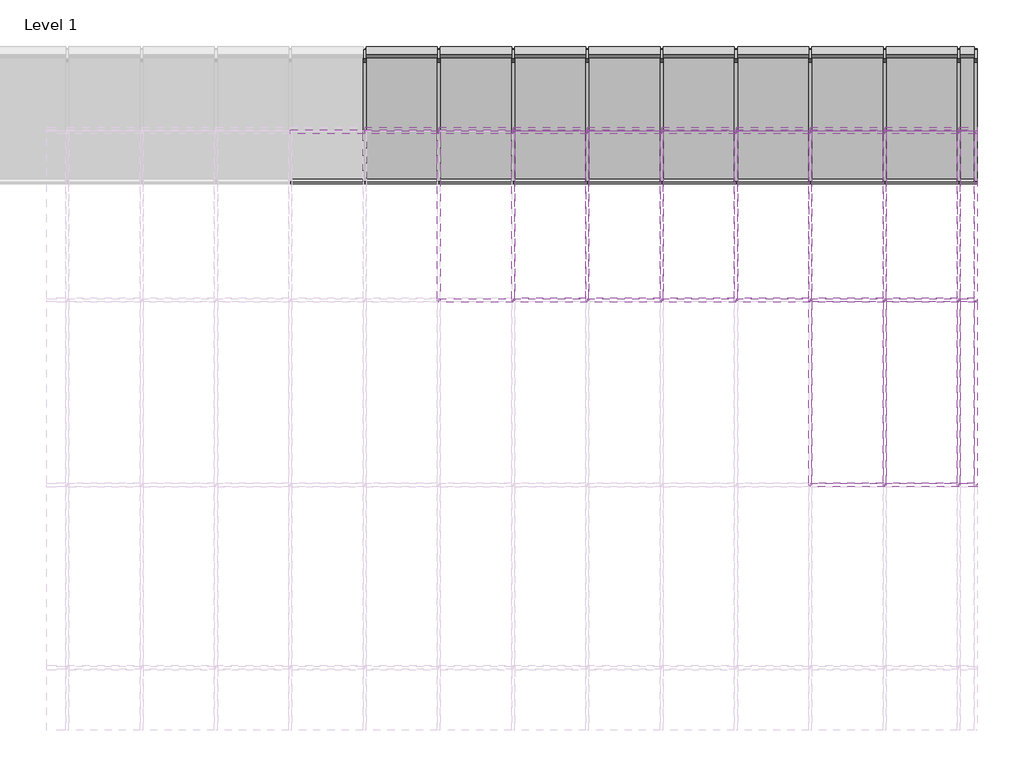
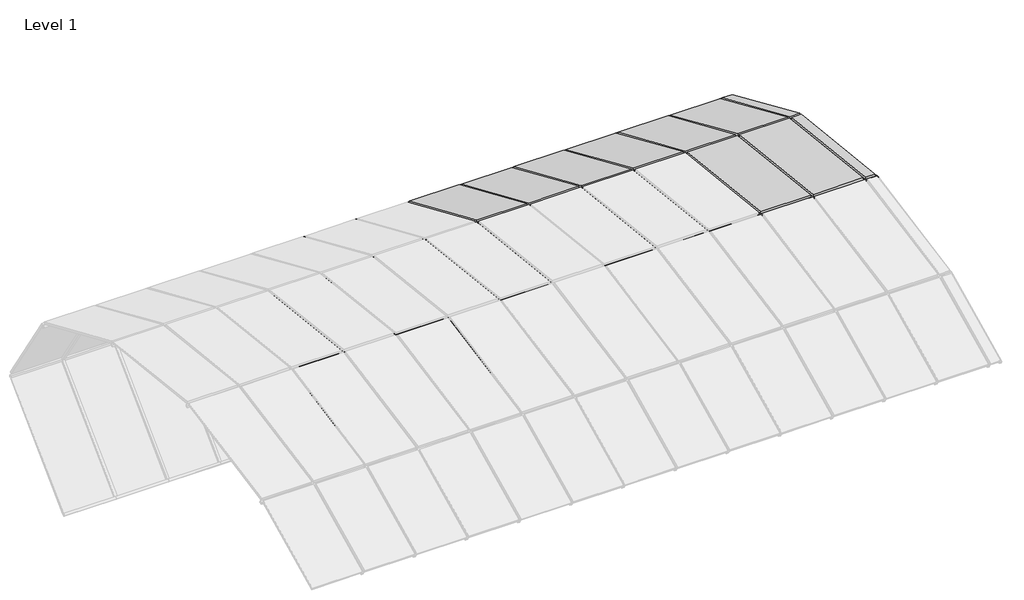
# One storey, part 22 of 23: 82 members, 28 plates.
"""IFC4 building model written with IfcOpenShell, lengths in millimetres."""

from ifc_helpers import new_model, si_unit, origin, place, context, project, spatial, transform, mapped, element, save
from components import member_68981e21, member_3e1f1dd8, member_fea202f7, member_67cfadff, member_309acb9e, member_04f0a375, member_1d69e541, member_e752087b, member_42213d33, member_0f8f75f6, member_88d46f17, member_1ddaab60, system_panel_glazed_36155e08, system_panel_glazed_4484050c, system_panel_glazed_af514bd4, system_panel_glazed_680ba1d7, system_panel_glazed_e96a6bf3, system_panel_glazed_036eda8b

model = new_model("IFC4")

# Units and contexts
model_context = context("Model", 3, world=origin())
ifc_project = project(units=[si_unit("LENGTHUNIT", "METRE", prefix="MILLI")], contexts=[model_context])

# Site, building, storey
site = spatial("IfcSite", under=ifc_project)
building = spatial("IfcBuilding", under=site)
storey = spatial("IfcBuildingStorey", under=building, Name="Level 1", Elevation=0.0)

# Members
placement = place(None, origin())
member_shape = member_68981e21(model_context)
element("IfcMember", 1, ObjectType="Rectangular Mullion : 1\" Square", at=placement, inside=storey, context=model_context, shape_type="MappedRepresentation", body=[
    mapped(member_shape, transform((450.2500186, 7543.2525753, 2085.6089632), x_axis=(0.0, 0.9167487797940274, -0.39946423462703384), y_axis=(0.0, 0.39946423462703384, 0.9167487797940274), z_axis=(1.0, 0.0, 0.0))),
])
element("IfcMember", 2, ObjectType="Rectangular Mullion : 1\" Square", at=placement, inside=storey, context=model_context, shape_type="MappedRepresentation", body=[
    mapped(member_shape, transform((1059.8500186, 7543.2525753, 2085.6089632), x_axis=(0.0, 0.9167487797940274, -0.39946423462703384), y_axis=(0.0, 0.39946423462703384, 0.9167487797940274), z_axis=(1.0, 0.0, 0.0))),
])
element("IfcMember", 3, ObjectType="Rectangular Mullion : 1\" Square", at=placement, inside=storey, context=model_context, shape_type="MappedRepresentation", body=[
    mapped(member_shape, transform((1669.4500186, 7543.2525753, 2085.6089632), x_axis=(0.0, 0.9167487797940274, -0.39946423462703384), y_axis=(0.0, 0.39946423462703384, 0.9167487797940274), z_axis=(1.0, 0.0, 0.0))),
])
element("IfcMember", 4, ObjectType="Rectangular Mullion : 1\" Square", at=placement, inside=storey, context=model_context, shape_type="MappedRepresentation", body=[
    mapped(member_shape, transform((2279.0500186, 7543.2525753, 2085.6089632), x_axis=(0.0, 0.9167487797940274, -0.39946423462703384), y_axis=(0.0, 0.39946423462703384, 0.9167487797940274), z_axis=(1.0, 0.0, 0.0))),
])
element("IfcMember", 5, ObjectType="Rectangular Mullion : 1\" Square", at=placement, inside=storey, context=model_context, shape_type="MappedRepresentation", body=[
    mapped(member_shape, transform((2888.6500186, 7543.2525753, 2085.6089632), x_axis=(0.0, 0.9167487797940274, -0.39946423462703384), y_axis=(0.0, 0.39946423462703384, 0.9167487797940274), z_axis=(1.0, 0.0, 0.0))),
])
element("IfcMember", 6, ObjectType="Rectangular Mullion : 1\" Square", at=placement, inside=storey, context=model_context, shape_type="MappedRepresentation", body=[
    mapped(member_shape, transform((3498.2500186, 7543.2525753, 2085.6089632), x_axis=(0.0, 0.9167487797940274, -0.39946423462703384), y_axis=(0.0, 0.39946423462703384, 0.9167487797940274), z_axis=(1.0, 0.0, 0.0))),
])
element("IfcMember", 7, ObjectType="Rectangular Mullion : 1\" Square", at=placement, inside=storey, context=model_context, shape_type="MappedRepresentation", body=[
    mapped(member_shape, transform((4107.8500186, 7543.2525753, 2085.6089632), x_axis=(0.0, 0.9167487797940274, -0.39946423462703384), y_axis=(0.0, 0.39946423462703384, 0.9167487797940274), z_axis=(1.0, 0.0, 0.0))),
])
element("IfcMember", 8, ObjectType="Rectangular Mullion : 1\" Square", at=placement, inside=storey, context=model_context, shape_type="MappedRepresentation", body=[
    mapped(member_shape, transform((4717.4500186, 7543.2525753, 2085.6089632), x_axis=(0.0, 0.9167487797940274, -0.39946423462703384), y_axis=(0.0, 0.39946423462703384, 0.9167487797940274), z_axis=(1.0, 0.0, 0.0))),
])
element("IfcMember", 9, ObjectType="Rectangular Mullion : 1\" Square", at=placement, inside=storey, context=model_context, shape_type="MappedRepresentation", body=[
    mapped(member_shape, transform((5327.0500186, 7543.2525753, 2085.6089632), x_axis=(0.0, 0.9167487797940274, -0.39946423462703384), y_axis=(0.0, 0.39946423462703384, 0.9167487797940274), z_axis=(1.0, 0.0, 0.0))),
])
element("IfcMember", 10, ObjectType="Rectangular Mullion : 1\" Square", at=placement, inside=storey, context=model_context, shape_type="MappedRepresentation", body=[
    mapped(member_shape, transform((450.2500186, 7111.8807303, 0.0), x_axis=(0.0, -0.713412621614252, -0.7007441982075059), y_axis=(0.0, 0.7007441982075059, -0.713412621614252), z_axis=(1.0, 0.0, 0.0))),
])
element("IfcMember", 11, ObjectType="Rectangular Mullion : 1\" Square", at=placement, inside=storey, context=model_context, shape_type="MappedRepresentation", body=[
    mapped(member_shape, transform((1059.8500186, 7111.8807303, 0.0), x_axis=(0.0, -0.713412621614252, -0.7007441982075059), y_axis=(0.0, 0.7007441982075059, -0.713412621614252), z_axis=(1.0, 0.0, 0.0))),
])
element("IfcMember", 12, ObjectType="Rectangular Mullion : 1\" Square", at=placement, inside=storey, context=model_context, shape_type="MappedRepresentation", body=[
    mapped(member_shape, transform((1669.4500186, 7111.8807303, 0.0), x_axis=(0.0, -0.713412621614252, -0.7007441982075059), y_axis=(0.0, 0.7007441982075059, -0.713412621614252), z_axis=(1.0, 0.0, 0.0))),
])
element("IfcMember", 13, ObjectType="Rectangular Mullion : 1\" Square", at=placement, inside=storey, context=model_context, shape_type="MappedRepresentation", body=[
    mapped(member_shape, transform((2279.0500186, 7111.8807303, 0.0), x_axis=(0.0, -0.713412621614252, -0.7007441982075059), y_axis=(0.0, 0.7007441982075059, -0.713412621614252), z_axis=(1.0, 0.0, 0.0))),
])
element("IfcMember", 14, ObjectType="Rectangular Mullion : 1\" Square", at=placement, inside=storey, context=model_context, shape_type="MappedRepresentation", body=[
    mapped(member_shape, transform((2888.6500186, 7111.8807303, 0.0), x_axis=(0.0, -0.713412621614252, -0.7007441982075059), y_axis=(0.0, 0.7007441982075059, -0.713412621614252), z_axis=(1.0, 0.0, 0.0))),
])
element("IfcMember", 15, ObjectType="Rectangular Mullion : 1\" Square", at=placement, inside=storey, context=model_context, shape_type="MappedRepresentation", body=[
    mapped(member_shape, transform((3498.2500186, 7111.8807303, 0.0), x_axis=(0.0, -0.713412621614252, -0.7007441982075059), y_axis=(0.0, 0.7007441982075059, -0.713412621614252), z_axis=(1.0, 0.0, 0.0))),
])
element("IfcMember", 16, ObjectType="Rectangular Mullion : 1\" Square", at=placement, inside=storey, context=model_context, shape_type="MappedRepresentation", body=[
    mapped(member_shape, transform((4107.8500186, 7111.8807303, 0.0), x_axis=(0.0, -0.713412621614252, -0.7007441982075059), y_axis=(0.0, 0.7007441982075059, -0.713412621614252), z_axis=(1.0, 0.0, 0.0))),
])
element("IfcMember", 17, ObjectType="Rectangular Mullion : 1\" Square", at=placement, inside=storey, context=model_context, shape_type="MappedRepresentation", body=[
    mapped(member_shape, transform((4717.4500186, 7111.8807303, 0.0), x_axis=(0.0, -0.713412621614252, -0.7007441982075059), y_axis=(0.0, 0.7007441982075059, -0.713412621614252), z_axis=(1.0, 0.0, 0.0))),
])
element("IfcMember", 18, ObjectType="Rectangular Mullion : 1\" Square", at=placement, inside=storey, context=model_context, shape_type="MappedRepresentation", body=[
    mapped(member_shape, transform((5327.0500186, 7111.8807303, 0.0), x_axis=(0.0, -0.713412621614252, -0.7007441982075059), y_axis=(0.0, 0.7007441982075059, -0.713412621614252), z_axis=(1.0, 0.0, 0.0))),
])
member_2_shape = member_3e1f1dd8(model_context)
element("IfcMember", 19, ObjectType="Rectangular Mullion : 1\" Square", at=placement, inside=storey, context=model_context, shape_type="MappedRepresentation", body=[
    mapped(member_2_shape, transform((4107.8500186, 4631.6132499, 2864.1651971), x_axis=(0.0, -0.9992773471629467, -0.038010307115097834), y_axis=(0.0, -0.038010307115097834, 0.9992773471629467), z_axis=(-1.0, 0.0, 0.0))),
])
element("IfcMember", 20, ObjectType="Rectangular Mullion : 1\" Square", at=placement, inside=storey, context=model_context, shape_type="MappedRepresentation", body=[
    mapped(member_2_shape, transform((4717.4500186, 4631.6132499, 2864.1651971), x_axis=(0.0, -0.9992773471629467, -0.038010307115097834), y_axis=(0.0, -0.038010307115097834, 0.9992773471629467), z_axis=(-1.0, 0.0, 0.0))),
])
member_3_shape = member_fea202f7(model_context)
element("IfcMember", 21, ObjectType="Rectangular Mullion : 1\" Square", at=placement, inside=storey, context=model_context, shape_type="MappedRepresentation", body=[
    mapped(member_3_shape, transform((5327.0500186, 4631.6132499, 2864.1651971), x_axis=(0.0, -0.9992773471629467, -0.038010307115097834), y_axis=(0.0, -0.038010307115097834, 0.9992773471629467), z_axis=(-1.0, 0.0, 0.0))),
])
element("IfcMember", 22, ObjectType="Rectangular Mullion : 1\" Square", at=placement, inside=storey, context=model_context, shape_type="MappedRepresentation", body=[
    mapped(member_shape, transform((450.2500186, 7543.2525753, 2085.6089632), x_axis=(0.0, -0.5417212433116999, 0.8405582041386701), y_axis=(0.0, 0.8405582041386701, 0.5417212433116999), z_axis=(-1.0, 0.0, 0.0))),
])
element("IfcMember", 23, ObjectType="Rectangular Mullion : 1\" Square", at=placement, inside=storey, context=model_context, shape_type="MappedRepresentation", body=[
    mapped(member_shape, transform((1059.8500186, 7543.2525753, 2085.6089632), x_axis=(0.0, -0.5417212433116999, 0.8405582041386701), y_axis=(0.0, 0.8405582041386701, 0.5417212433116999), z_axis=(-1.0, 0.0, 0.0))),
])
element("IfcMember", 24, ObjectType="Rectangular Mullion : 1\" Square", at=placement, inside=storey, context=model_context, shape_type="MappedRepresentation", body=[
    mapped(member_shape, transform((1669.4500186, 7543.2525753, 2085.6089632), x_axis=(0.0, -0.5417212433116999, 0.8405582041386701), y_axis=(0.0, 0.8405582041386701, 0.5417212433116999), z_axis=(-1.0, 0.0, 0.0))),
])
element("IfcMember", 25, ObjectType="Rectangular Mullion : 1\" Square", at=placement, inside=storey, context=model_context, shape_type="MappedRepresentation", body=[
    mapped(member_shape, transform((2279.0500186, 7543.2525753, 2085.6089632), x_axis=(0.0, -0.5417212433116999, 0.8405582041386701), y_axis=(0.0, 0.8405582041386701, 0.5417212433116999), z_axis=(-1.0, 0.0, 0.0))),
])
element("IfcMember", 26, ObjectType="Rectangular Mullion : 1\" Square", at=placement, inside=storey, context=model_context, shape_type="MappedRepresentation", body=[
    mapped(member_shape, transform((2888.6500186, 7543.2525753, 2085.6089632), x_axis=(0.0, -0.5417212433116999, 0.8405582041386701), y_axis=(0.0, 0.8405582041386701, 0.5417212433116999), z_axis=(-1.0, 0.0, 0.0))),
])
element("IfcMember", 27, ObjectType="Rectangular Mullion : 1\" Square", at=placement, inside=storey, context=model_context, shape_type="MappedRepresentation", body=[
    mapped(member_shape, transform((3498.2500186, 7543.2525753, 2085.6089632), x_axis=(0.0, -0.5417212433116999, 0.8405582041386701), y_axis=(0.0, 0.8405582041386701, 0.5417212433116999), z_axis=(-1.0, 0.0, 0.0))),
])
element("IfcMember", 28, ObjectType="Rectangular Mullion : 1\" Square", at=placement, inside=storey, context=model_context, shape_type="MappedRepresentation", body=[
    mapped(member_shape, transform((4107.8500186, 7543.2525753, 2085.6089632), x_axis=(0.0, -0.5417212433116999, 0.8405582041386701), y_axis=(0.0, 0.8405582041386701, 0.5417212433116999), z_axis=(-1.0, 0.0, 0.0))),
])
element("IfcMember", 29, ObjectType="Rectangular Mullion : 1\" Square", at=placement, inside=storey, context=model_context, shape_type="MappedRepresentation", body=[
    mapped(member_shape, transform((4717.4500186, 7543.2525753, 2085.6089632), x_axis=(0.0, -0.5417212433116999, 0.8405582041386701), y_axis=(0.0, 0.8405582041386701, 0.5417212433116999), z_axis=(-1.0, 0.0, 0.0))),
])
element("IfcMember", 30, ObjectType="Rectangular Mullion : 1\" Square", at=placement, inside=storey, context=model_context, shape_type="MappedRepresentation", body=[
    mapped(member_2_shape, transform((1059.8500186, 6146.1274349, 2694.3924567), x_axis=(0.0, -0.9660596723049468, 0.25831900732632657), y_axis=(0.0, 0.25831900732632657, 0.9660596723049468), z_axis=(-1.0, 0.0, 0.0))),
])
element("IfcMember", 31, ObjectType="Rectangular Mullion : 1\" Square", at=placement, inside=storey, context=model_context, shape_type="MappedRepresentation", body=[
    mapped(member_2_shape, transform((1669.4500186, 6146.1274349, 2694.3924567), x_axis=(0.0, -0.9660596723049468, 0.25831900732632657), y_axis=(0.0, 0.25831900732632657, 0.9660596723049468), z_axis=(-1.0, 0.0, 0.0))),
])
element("IfcMember", 32, ObjectType="Rectangular Mullion : 1\" Square", at=placement, inside=storey, context=model_context, shape_type="MappedRepresentation", body=[
    mapped(member_2_shape, transform((2279.0500186, 6146.1274349, 2694.3924567), x_axis=(0.0, -0.9660596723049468, 0.25831900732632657), y_axis=(0.0, 0.25831900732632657, 0.9660596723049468), z_axis=(-1.0, 0.0, 0.0))),
])
element("IfcMember", 33, ObjectType="Rectangular Mullion : 1\" Square", at=placement, inside=storey, context=model_context, shape_type="MappedRepresentation", body=[
    mapped(member_2_shape, transform((2888.6500186, 6146.1274349, 2694.3924567), x_axis=(0.0, -0.9660596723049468, 0.25831900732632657), y_axis=(0.0, 0.25831900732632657, 0.9660596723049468), z_axis=(-1.0, 0.0, 0.0))),
])
element("IfcMember", 34, ObjectType="Rectangular Mullion : 1\" Square", at=placement, inside=storey, context=model_context, shape_type="MappedRepresentation", body=[
    mapped(member_2_shape, transform((3498.2500186, 6146.1274349, 2694.3924567), x_axis=(0.0, -0.9660596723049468, 0.25831900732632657), y_axis=(0.0, 0.25831900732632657, 0.9660596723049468), z_axis=(-1.0, 0.0, 0.0))),
])
element("IfcMember", 35, ObjectType="Rectangular Mullion : 1\" Square", at=placement, inside=storey, context=model_context, shape_type="MappedRepresentation", body=[
    mapped(member_2_shape, transform((4107.8500186, 6146.1274349, 2694.3924567), x_axis=(0.0, -0.9660596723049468, 0.25831900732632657), y_axis=(0.0, 0.25831900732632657, 0.9660596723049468), z_axis=(-1.0, 0.0, 0.0))),
])
element("IfcMember", 36, ObjectType="Rectangular Mullion : 1\" Square", at=placement, inside=storey, context=model_context, shape_type="MappedRepresentation", body=[
    mapped(member_2_shape, transform((4717.4500186, 6146.1274349, 2694.3924567), x_axis=(0.0, -0.9660596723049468, 0.25831900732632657), y_axis=(0.0, 0.25831900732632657, 0.9660596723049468), z_axis=(-1.0, 0.0, 0.0))),
])
element("IfcMember", 37, ObjectType="Rectangular Mullion : 1\" Square", at=placement, inside=storey, context=model_context, shape_type="MappedRepresentation", body=[
    mapped(member_2_shape, transform((450.2500186, 8199.1215657, 1067.9341581), x_axis=(0.0, 0.017915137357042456, 0.9998395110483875), y_axis=(0.0, 0.9998395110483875, -0.017915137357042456), z_axis=(-1.0, 0.0, 0.0))),
])
element("IfcMember", 38, ObjectType="Rectangular Mullion : 1\" Square", at=placement, inside=storey, context=model_context, shape_type="MappedRepresentation", body=[
    mapped(member_2_shape, transform((1059.8500186, 8199.1215657, 1067.9341581), x_axis=(0.0, 0.017915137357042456, 0.9998395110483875), y_axis=(0.0, 0.9998395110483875, -0.017915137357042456), z_axis=(-1.0, 0.0, 0.0))),
])
element("IfcMember", 39, ObjectType="Rectangular Mullion : 1\" Square", at=placement, inside=storey, context=model_context, shape_type="MappedRepresentation", body=[
    mapped(member_2_shape, transform((1669.4500186, 8199.1215657, 1067.9341581), x_axis=(0.0, 0.017915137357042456, 0.9998395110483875), y_axis=(0.0, 0.9998395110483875, -0.017915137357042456), z_axis=(-1.0, 0.0, 0.0))),
])
element("IfcMember", 40, ObjectType="Rectangular Mullion : 1\" Square", at=placement, inside=storey, context=model_context, shape_type="MappedRepresentation", body=[
    mapped(member_2_shape, transform((2279.0500186, 8199.1215657, 1067.9341581), x_axis=(0.0, 0.017915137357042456, 0.9998395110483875), y_axis=(0.0, 0.9998395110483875, -0.017915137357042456), z_axis=(-1.0, 0.0, 0.0))),
])
element("IfcMember", 41, ObjectType="Rectangular Mullion : 1\" Square", at=placement, inside=storey, context=model_context, shape_type="MappedRepresentation", body=[
    mapped(member_2_shape, transform((2888.6500186, 8199.1215657, 1067.9341581), x_axis=(0.0, 0.017915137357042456, 0.9998395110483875), y_axis=(0.0, 0.9998395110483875, -0.017915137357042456), z_axis=(-1.0, 0.0, 0.0))),
])
element("IfcMember", 42, ObjectType="Rectangular Mullion : 1\" Square", at=placement, inside=storey, context=model_context, shape_type="MappedRepresentation", body=[
    mapped(member_2_shape, transform((3498.2500186, 8199.1215657, 1067.9341581), x_axis=(0.0, 0.017915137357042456, 0.9998395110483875), y_axis=(0.0, 0.9998395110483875, -0.017915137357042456), z_axis=(-1.0, 0.0, 0.0))),
])
element("IfcMember", 43, ObjectType="Rectangular Mullion : 1\" Square", at=placement, inside=storey, context=model_context, shape_type="MappedRepresentation", body=[
    mapped(member_2_shape, transform((4107.8500186, 8199.1215657, 1067.9341581), x_axis=(0.0, 0.017915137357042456, 0.9998395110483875), y_axis=(0.0, 0.9998395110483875, -0.017915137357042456), z_axis=(-1.0, 0.0, 0.0))),
])
element("IfcMember", 44, ObjectType="Rectangular Mullion : 1\" Square", at=placement, inside=storey, context=model_context, shape_type="MappedRepresentation", body=[
    mapped(member_2_shape, transform((4717.4500186, 8199.1215657, 1067.9341581), x_axis=(0.0, 0.017915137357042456, 0.9998395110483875), y_axis=(0.0, 0.9998395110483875, -0.017915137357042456), z_axis=(-1.0, 0.0, 0.0))),
])
element("IfcMember", 45, ObjectType="Rectangular Mullion : 1\" Square", at=placement, inside=storey, context=model_context, shape_type="MappedRepresentation", body=[
    mapped(member_3_shape, transform((5327.0500186, 6146.1274349, 2694.3924567), x_axis=(0.0, -0.9660596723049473, 0.25831900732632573), y_axis=(0.0, 0.2583190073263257, 0.966059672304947), z_axis=(-1.0, 0.0, 0.0))),
])
element("IfcMember", 46, ObjectType="Rectangular Mullion : 1\" Square", at=placement, inside=storey, context=model_context, shape_type="MappedRepresentation", body=[
    mapped(member_3_shape, transform((5327.0500186, 8199.1215657, 1067.9341581), x_axis=(0.0, 0.017915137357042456, 0.9998395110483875), y_axis=(0.0, 0.9998395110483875, -0.017915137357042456), z_axis=(-1.0, 0.0, 0.0))),
])
member_4_shape = member_67cfadff(model_context)
element("IfcMember", 47, ObjectType="Rectangular Mullion : 1\" Square", at=placement, inside=storey, context=model_context, shape_type="MappedRepresentation", body=[
    mapped(member_4_shape, transform((1059.8500186, 6157.7701444, 2689.3192609), x_axis=(1.0, 0.0, 0.0), y_axis=(0.0, 0.39946423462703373, 0.9167487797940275), z_axis=(0.0, -0.9167487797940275, 0.39946423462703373))),
])
element("IfcMember", 48, ObjectType="Rectangular Mullion : 1\" Square", at=placement, inside=storey, context=model_context, shape_type="MappedRepresentation", body=[
    mapped(member_4_shape, transform((1669.4500186, 6157.7701444, 2689.3192609), x_axis=(1.0, 0.0, 0.0), y_axis=(0.0, 0.39946423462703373, 0.9167487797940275), z_axis=(0.0, -0.9167487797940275, 0.39946423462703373))),
])
element("IfcMember", 49, ObjectType="Rectangular Mullion : 1\" Square", at=placement, inside=storey, context=model_context, shape_type="MappedRepresentation", body=[
    mapped(member_4_shape, transform((2279.0500186, 6157.7701444, 2689.3192609), x_axis=(1.0, 0.0, 0.0), y_axis=(0.0, 0.39946423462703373, 0.9167487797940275), z_axis=(0.0, -0.9167487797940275, 0.39946423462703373))),
])
element("IfcMember", 50, ObjectType="Rectangular Mullion : 1\" Square", at=placement, inside=storey, context=model_context, shape_type="MappedRepresentation", body=[
    mapped(member_4_shape, transform((2888.6500186, 6157.7701444, 2689.3192609), x_axis=(1.0, 0.0, 0.0), y_axis=(0.0, 0.39946423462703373, 0.9167487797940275), z_axis=(0.0, -0.9167487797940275, 0.39946423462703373))),
])
element("IfcMember", 51, ObjectType="Rectangular Mullion : 1\" Square", at=placement, inside=storey, context=model_context, shape_type="MappedRepresentation", body=[
    mapped(member_4_shape, transform((3498.2500186, 6157.7701444, 2689.3192609), x_axis=(1.0, 0.0, 0.0), y_axis=(0.0, 0.39946423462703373, 0.9167487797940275), z_axis=(0.0, -0.9167487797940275, 0.39946423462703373))),
])
element("IfcMember", 52, ObjectType="Rectangular Mullion : 1\" Square", at=placement, inside=storey, context=model_context, shape_type="MappedRepresentation", body=[
    mapped(member_4_shape, transform((4107.8500186, 6157.7701444, 2689.3192609), x_axis=(1.0, 0.0, 0.0), y_axis=(0.0, 0.39946423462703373, 0.9167487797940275), z_axis=(0.0, -0.9167487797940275, 0.39946423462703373))),
])
element("IfcMember", 53, ObjectType="Rectangular Mullion : 1\" Square", at=placement, inside=storey, context=model_context, shape_type="MappedRepresentation", body=[
    mapped(member_4_shape, transform((4717.4500186, 6157.7701444, 2689.3192609), x_axis=(1.0, 0.0, 0.0), y_axis=(0.0, 0.39946423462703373, 0.9167487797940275), z_axis=(0.0, -0.9167487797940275, 0.39946423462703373))),
])
member_5_shape = member_309acb9e(model_context)
element("IfcMember", 54, ObjectType="Rectangular Mullion : 1\" Square", at=placement, inside=storey, context=model_context, shape_type="MappedRepresentation", body=[
    mapped(member_5_shape, transform((4107.8500186, 4644.2342014, 2862.7504243), x_axis=(0.9999999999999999, 0.0, 0.0), y_axis=(0.0, 0.11139943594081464, 0.9937757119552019), z_axis=(0.0, -0.9937757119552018, 0.11139943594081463))),
])
element("IfcMember", 55, ObjectType="Rectangular Mullion : 1\" Square", at=placement, inside=storey, context=model_context, shape_type="MappedRepresentation", body=[
    mapped(member_5_shape, transform((4717.4500186, 4644.2342014, 2862.7504243), x_axis=(0.9999999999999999, 0.0, 0.0), y_axis=(0.0, 0.11139943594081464, 0.9937757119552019), z_axis=(0.0, -0.9937757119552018, 0.11139943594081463))),
])
element("IfcMember", 56, ObjectType="Rectangular Mullion : 1\" Square", at=placement, inside=storey, context=model_context, shape_type="MappedRepresentation", body=[
    mapped(member_4_shape, transform((5327.0500186, 6157.7701444, 2689.3192609), x_axis=(0.9999999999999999, 0.0, 0.0), y_axis=(0.0, 0.3994642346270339, 0.9167487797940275), z_axis=(0.0, -0.9167487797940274, 0.39946423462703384))),
])
element("IfcMember", 57, ObjectType="Rectangular Mullion : 1\" Square", at=placement, inside=storey, context=model_context, shape_type="MappedRepresentation", body=[
    mapped(member_5_shape, transform((5327.0500186, 4644.2342014, 2862.7504243), x_axis=(0.9999999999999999, 0.0, 0.0), y_axis=(0.0, 0.1113994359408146, 0.9937757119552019), z_axis=(0.0, -0.9937757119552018, 0.11139943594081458))),
])
member_6_shape = member_04f0a375(model_context)
element("IfcMember", 58, ObjectType="Rectangular Mullion : 1\" Square", at=placement, inside=storey, context=model_context, shape_type="MappedRepresentation", body=[
    mapped(member_6_shape, transform((5479.4500186, 6157.7701444, 2689.3192609), x_axis=(1.0, 0.0, 0.0), y_axis=(0.0, 0.39946423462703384, 0.9167487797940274), z_axis=(0.0, -0.9167487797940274, 0.39946423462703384))),
])
member_7_shape = member_1d69e541(model_context)
element("IfcMember", 59, ObjectType="Rectangular Mullion : 1\" Square", at=placement, inside=storey, context=model_context, shape_type="MappedRepresentation", body=[
    mapped(member_7_shape, transform((5479.4500186, 4644.2342014, 2862.7504243), x_axis=(1.0, 0.0, 0.0), y_axis=(0.0, 0.11139943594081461, 0.993775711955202), z_axis=(0.0, -0.9937757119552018, 0.11139943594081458))),
])
member_8_shape = member_e752087b(model_context)
element("IfcMember", 60, ObjectType="Rectangular Mullion : 1\" Square", at=placement, inside=storey, context=model_context, shape_type="MappedRepresentation", body=[
    mapped(member_8_shape, transform((5479.4500186, 7543.2525753, 2085.6089632), x_axis=(0.0, 0.9167487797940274, -0.39946423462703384), y_axis=(0.0, 0.39946423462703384, 0.9167487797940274), z_axis=(1.0, 0.0, 0.0))),
])
element("IfcMember", 61, ObjectType="Rectangular Mullion : 1\" Square", at=placement, inside=storey, context=model_context, shape_type="MappedRepresentation", body=[
    mapped(member_8_shape, transform((5479.4500186, 7111.8807303, 0.0), x_axis=(0.0, -0.713412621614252, -0.7007441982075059), y_axis=(0.0, 0.7007441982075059, -0.713412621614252), z_axis=(1.0, 0.0, 0.0))),
])
member_9_shape = member_42213d33(model_context)
element("IfcMember", 62, ObjectType="Rectangular Mullion : 1\" Square", at=placement, inside=storey, context=model_context, shape_type="MappedRepresentation", body=[
    mapped(member_9_shape, transform((3498.2500186, 8190.0612254, 1059.0347068), x_axis=(1.0, 0.0, 0.0), y_axis=(0.0, 0.7007441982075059, -0.713412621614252), z_axis=(0.0, 0.713412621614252, 0.7007441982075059))),
])
element("IfcMember", 63, ObjectType="Rectangular Mullion : 1\" Square", at=placement, inside=storey, context=model_context, shape_type="MappedRepresentation", body=[
    mapped(member_9_shape, transform((4107.8500186, 8190.0612254, 1059.0347068), x_axis=(1.0, 0.0, 0.0), y_axis=(0.0, 0.7007441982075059, -0.713412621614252), z_axis=(0.0, 0.713412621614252, 0.7007441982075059))),
])
element("IfcMember", 64, ObjectType="Rectangular Mullion : 1\" Square", at=placement, inside=storey, context=model_context, shape_type="MappedRepresentation", body=[
    mapped(member_9_shape, transform((4717.4500186, 8190.0612254, 1059.0347068), x_axis=(1.0, 0.0, 0.0), y_axis=(0.0, 0.7007441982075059, -0.713412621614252), z_axis=(0.0, 0.713412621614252, 0.7007441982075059))),
])
element("IfcMember", 65, ObjectType="Rectangular Mullion : 1\" Square", at=placement, inside=storey, context=model_context, shape_type="MappedRepresentation", body=[
    mapped(member_9_shape, transform((450.2500186, 8190.0612254, 1059.0347068), x_axis=(1.0, 0.0, 0.0), y_axis=(0.0, 0.7007441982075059, -0.713412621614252), z_axis=(0.0, 0.713412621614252, 0.7007441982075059))),
])
element("IfcMember", 66, ObjectType="Rectangular Mullion : 1\" Square", at=placement, inside=storey, context=model_context, shape_type="MappedRepresentation", body=[
    mapped(member_9_shape, transform((1059.8500186, 8190.0612254, 1059.0347068), x_axis=(1.0, 0.0, 0.0), y_axis=(0.0, 0.7007441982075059, -0.713412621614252), z_axis=(0.0, 0.713412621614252, 0.7007441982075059))),
])
element("IfcMember", 67, ObjectType="Rectangular Mullion : 1\" Square", at=placement, inside=storey, context=model_context, shape_type="MappedRepresentation", body=[
    mapped(member_9_shape, transform((1669.4500186, 8190.0612254, 1059.0347068), x_axis=(1.0, 0.0, 0.0), y_axis=(0.0, 0.7007441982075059, -0.713412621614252), z_axis=(0.0, 0.713412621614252, 0.7007441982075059))),
])
element("IfcMember", 68, ObjectType="Rectangular Mullion : 1\" Square", at=placement, inside=storey, context=model_context, shape_type="MappedRepresentation", body=[
    mapped(member_9_shape, transform((2279.0500186, 8190.0612254, 1059.0347068), x_axis=(1.0, 0.0, 0.0), y_axis=(0.0, 0.7007441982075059, -0.713412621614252), z_axis=(0.0, 0.713412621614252, 0.7007441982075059))),
])
element("IfcMember", 69, ObjectType="Rectangular Mullion : 1\" Square", at=placement, inside=storey, context=model_context, shape_type="MappedRepresentation", body=[
    mapped(member_9_shape, transform((2888.6500186, 8190.0612254, 1059.0347068), x_axis=(1.0, 0.0, 0.0), y_axis=(0.0, 0.7007441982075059, -0.713412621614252), z_axis=(0.0, 0.713412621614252, 0.7007441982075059))),
])
member_10_shape = member_0f8f75f6(model_context)
element("IfcMember", 70, ObjectType="Rectangular Mullion : 1\" Square", at=placement, inside=storey, context=model_context, shape_type="MappedRepresentation", body=[
    mapped(member_10_shape, transform((3498.2500186, 7557.0122949, 2064.2587848), x_axis=(0.9999999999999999, 0.0, 0.0), y_axis=(0.0, 0.8405582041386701, 0.5417212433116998), z_axis=(0.0, -0.5417212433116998, 0.84055820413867))),
])
element("IfcMember", 71, ObjectType="Rectangular Mullion : 1\" Square", at=placement, inside=storey, context=model_context, shape_type="MappedRepresentation", body=[
    mapped(member_10_shape, transform((4107.8500186, 7557.0122949, 2064.2587848), x_axis=(1.0, 0.0, 0.0), y_axis=(0.0, 0.8405582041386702, 0.5417212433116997), z_axis=(0.0, -0.5417212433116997, 0.8405582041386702))),
])
element("IfcMember", 72, ObjectType="Rectangular Mullion : 1\" Square", at=placement, inside=storey, context=model_context, shape_type="MappedRepresentation", body=[
    mapped(member_10_shape, transform((4717.4500186, 7557.0122949, 2064.2587848), x_axis=(1.0, 0.0, 0.0), y_axis=(0.0, 0.8405582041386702, 0.5417212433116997), z_axis=(0.0, -0.5417212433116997, 0.8405582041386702))),
])
element("IfcMember", 73, ObjectType="Rectangular Mullion : 1\" Square", at=placement, inside=storey, context=model_context, shape_type="MappedRepresentation", body=[
    mapped(member_10_shape, transform((450.2500186, 7557.0122949, 2064.2587848), x_axis=(0.9999999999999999, 0.0, 0.0), y_axis=(0.0, 0.8405582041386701, 0.5417212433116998), z_axis=(0.0, -0.5417212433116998, 0.84055820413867))),
])
element("IfcMember", 74, ObjectType="Rectangular Mullion : 1\" Square", at=placement, inside=storey, context=model_context, shape_type="MappedRepresentation", body=[
    mapped(member_10_shape, transform((1059.8500186, 7557.0122949, 2064.2587848), x_axis=(0.9999999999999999, 0.0, 0.0), y_axis=(0.0, 0.8405582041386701, 0.5417212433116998), z_axis=(0.0, -0.5417212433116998, 0.84055820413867))),
])
element("IfcMember", 75, ObjectType="Rectangular Mullion : 1\" Square", at=placement, inside=storey, context=model_context, shape_type="MappedRepresentation", body=[
    mapped(member_10_shape, transform((1669.4500186, 7557.0122949, 2064.2587848), x_axis=(0.9999999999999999, 0.0, 0.0), y_axis=(0.0, 0.8405582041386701, 0.5417212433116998), z_axis=(0.0, -0.5417212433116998, 0.84055820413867))),
])
element("IfcMember", 76, ObjectType="Rectangular Mullion : 1\" Square", at=placement, inside=storey, context=model_context, shape_type="MappedRepresentation", body=[
    mapped(member_10_shape, transform((2279.0500186, 7557.0122949, 2064.2587848), x_axis=(0.9999999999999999, 0.0, 0.0), y_axis=(0.0, 0.8405582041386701, 0.5417212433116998), z_axis=(0.0, -0.5417212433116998, 0.84055820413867))),
])
element("IfcMember", 77, ObjectType="Rectangular Mullion : 1\" Square", at=placement, inside=storey, context=model_context, shape_type="MappedRepresentation", body=[
    mapped(member_10_shape, transform((2888.6500186, 7557.0122949, 2064.2587848), x_axis=(0.9999999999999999, 0.0, 0.0), y_axis=(0.0, 0.8405582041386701, 0.5417212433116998), z_axis=(0.0, -0.5417212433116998, 0.84055820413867))),
])
element("IfcMember", 78, ObjectType="Rectangular Mullion : 1\" Square", at=placement, inside=storey, context=model_context, shape_type="MappedRepresentation", body=[
    mapped(member_8_shape, transform((5327.0500186, 7543.2525753, 2085.6089632), x_axis=(0.0, -0.5417212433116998, 0.8405582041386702), y_axis=(0.0, 0.8405582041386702, 0.5417212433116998), z_axis=(-1.0, 0.0, 0.0))),
])
element("IfcMember", 79, ObjectType="Rectangular Mullion : 1\" Square", at=placement, inside=storey, context=model_context, shape_type="MappedRepresentation", body=[
    mapped(member_9_shape, transform((5327.0500186, 8190.0612254, 1059.0347068), x_axis=(1.0, 0.0, 0.0), y_axis=(0.0, 0.7007441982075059, -0.713412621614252), z_axis=(0.0, 0.713412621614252, 0.7007441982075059))),
])
element("IfcMember", 80, ObjectType="Rectangular Mullion : 1\" Square", at=placement, inside=storey, context=model_context, shape_type="MappedRepresentation", body=[
    mapped(member_10_shape, transform((5327.0500186, 7557.0122949, 2064.2587848), x_axis=(0.9999999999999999, 0.0, 0.0), y_axis=(0.0, 0.8405582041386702, 0.5417212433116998), z_axis=(0.0, -0.5417212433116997, 0.84055820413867))),
])
member_11_shape = member_88d46f17(model_context)
element("IfcMember", 81, ObjectType="Rectangular Mullion : 1\" Square", at=placement, inside=storey, context=model_context, shape_type="MappedRepresentation", body=[
    mapped(member_11_shape, transform((5479.4500186, 8190.0612254, 1059.0347068), x_axis=(1.0, 0.0, 0.0), y_axis=(0.0, 0.7007441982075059, -0.713412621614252), z_axis=(0.0, 0.713412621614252, 0.7007441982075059))),
])
member_12_shape = member_1ddaab60(model_context)
element("IfcMember", 82, ObjectType="Rectangular Mullion : 1\" Square", at=placement, inside=storey, context=model_context, shape_type="MappedRepresentation", body=[
    mapped(member_12_shape, transform((5479.4500186, 7557.0122949, 2064.2587848), x_axis=(1.0, 0.0, 0.0), y_axis=(0.0, 0.8405582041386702, 0.5417212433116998), z_axis=(0.0, -0.5417212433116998, 0.8405582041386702))),
])

# Plates
system_panel_glazed_shape = system_panel_glazed_36155e08(model_context)
element("IfcPlate", 83, ObjectType="System Panel : Glazed", at=placement, inside=storey, context=model_context, shape_type="MappedRepresentation", body=[
    mapped(system_panel_glazed_shape, transform((1682.1500186, 6838.8686503, 2392.5373078), x_axis=(0.0, -0.9167487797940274, 0.39946423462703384), y_axis=(0.0, -0.39946423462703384, -0.9167487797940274), z_axis=(1.0, 0.0, 0.0))),
])
element("IfcPlate", 84, ObjectType="System Panel : Glazed", at=placement, inside=storey, context=model_context, shape_type="MappedRepresentation", body=[
    mapped(system_panel_glazed_shape, transform((2291.7500186, 6838.8686503, 2392.5373078), x_axis=(0.0, -0.9167487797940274, 0.39946423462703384), y_axis=(0.0, -0.39946423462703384, -0.9167487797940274), z_axis=(1.0, 0.0, 0.0))),
])
element("IfcPlate", 85, ObjectType="System Panel : Glazed", at=placement, inside=storey, context=model_context, shape_type="MappedRepresentation", body=[
    mapped(system_panel_glazed_shape, transform((2901.3500186, 6838.8686503, 2392.5373078), x_axis=(0.0, -0.9167487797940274, 0.39946423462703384), y_axis=(0.0, -0.39946423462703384, -0.9167487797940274), z_axis=(1.0, 0.0, 0.0))),
])
element("IfcPlate", 86, ObjectType="System Panel : Glazed", at=placement, inside=storey, context=model_context, shape_type="MappedRepresentation", body=[
    mapped(system_panel_glazed_shape, transform((3510.9500186, 6838.8686503, 2392.5373078), x_axis=(0.0, -0.9167487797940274, 0.39946423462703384), y_axis=(0.0, -0.39946423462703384, -0.9167487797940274), z_axis=(1.0, 0.0, 0.0))),
])
element("IfcPlate", 87, ObjectType="System Panel : Glazed", at=placement, inside=storey, context=model_context, shape_type="MappedRepresentation", body=[
    mapped(system_panel_glazed_shape, transform((4120.5500186, 6838.8686503, 2392.5373078), x_axis=(0.0, -0.9167487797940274, 0.39946423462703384), y_axis=(0.0, -0.39946423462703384, -0.9167487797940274), z_axis=(1.0, 0.0, 0.0))),
])
element("IfcPlate", 88, ObjectType="System Panel : Glazed", at=placement, inside=storey, context=model_context, shape_type="MappedRepresentation", body=[
    mapped(system_panel_glazed_shape, transform((4730.1500186, 6838.8686503, 2392.5373078), x_axis=(0.0, -0.9167487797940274, 0.39946423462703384), y_axis=(0.0, -0.39946423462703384, -0.9167487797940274), z_axis=(1.0, 0.0, 0.0))),
])
element("IfcPlate", 89, ObjectType="System Panel : Glazed", at=placement, inside=storey, context=model_context, shape_type="MappedRepresentation", body=[
    mapped(system_panel_glazed_shape, transform((462.9500186, 7660.0313181, 538.4168047), x_axis=(0.0, 0.713412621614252, 0.7007441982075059), y_axis=(0.0, -0.7007441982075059, 0.713412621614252), z_axis=(1.0, 0.0, 0.0))),
])
element("IfcPlate", 90, ObjectType="System Panel : Glazed", at=placement, inside=storey, context=model_context, shape_type="MappedRepresentation", body=[
    mapped(system_panel_glazed_shape, transform((1072.5500186, 7660.0313181, 538.4168047), x_axis=(0.0, 0.713412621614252, 0.7007441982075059), y_axis=(0.0, -0.7007441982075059, 0.713412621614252), z_axis=(1.0, 0.0, 0.0))),
])
element("IfcPlate", 91, ObjectType="System Panel : Glazed", at=placement, inside=storey, context=model_context, shape_type="MappedRepresentation", body=[
    mapped(system_panel_glazed_shape, transform((1682.1500186, 7660.0313181, 538.4168047), x_axis=(0.0, 0.713412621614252, 0.7007441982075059), y_axis=(0.0, -0.7007441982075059, 0.713412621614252), z_axis=(1.0, 0.0, 0.0))),
])
element("IfcPlate", 92, ObjectType="System Panel : Glazed", at=placement, inside=storey, context=model_context, shape_type="MappedRepresentation", body=[
    mapped(system_panel_glazed_shape, transform((2291.7500186, 7660.0313181, 538.4168047), x_axis=(0.0, 0.713412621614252, 0.7007441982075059), y_axis=(0.0, -0.7007441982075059, 0.713412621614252), z_axis=(1.0, 0.0, 0.0))),
])
element("IfcPlate", 93, ObjectType="System Panel : Glazed", at=placement, inside=storey, context=model_context, shape_type="MappedRepresentation", body=[
    mapped(system_panel_glazed_shape, transform((2901.3500186, 7660.0313181, 538.4168047), x_axis=(0.0, 0.713412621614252, 0.7007441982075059), y_axis=(0.0, -0.7007441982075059, 0.713412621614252), z_axis=(1.0, 0.0, 0.0))),
])
element("IfcPlate", 94, ObjectType="System Panel : Glazed", at=placement, inside=storey, context=model_context, shape_type="MappedRepresentation", body=[
    mapped(system_panel_glazed_shape, transform((3510.9500186, 7660.0313181, 538.4168047), x_axis=(0.0, 0.713412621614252, 0.7007441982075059), y_axis=(0.0, -0.7007441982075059, 0.713412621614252), z_axis=(1.0, 0.0, 0.0))),
])
element("IfcPlate", 95, ObjectType="System Panel : Glazed", at=placement, inside=storey, context=model_context, shape_type="MappedRepresentation", body=[
    mapped(system_panel_glazed_shape, transform((4120.5500186, 7660.0313181, 538.4168047), x_axis=(0.0, 0.713412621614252, 0.7007441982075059), y_axis=(0.0, -0.7007441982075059, 0.713412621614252), z_axis=(1.0, 0.0, 0.0))),
])
element("IfcPlate", 96, ObjectType="System Panel : Glazed", at=placement, inside=storey, context=model_context, shape_type="MappedRepresentation", body=[
    mapped(system_panel_glazed_shape, transform((4730.1500186, 7660.0313181, 538.4168047), x_axis=(0.0, 0.713412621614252, 0.7007441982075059), y_axis=(0.0, -0.7007441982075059, 0.713412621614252), z_axis=(1.0, 0.0, 0.0))),
])
system_panel_glazed_2_shape = system_panel_glazed_4484050c(model_context)
element("IfcPlate", 97, ObjectType="System Panel : Glazed", at=placement, inside=storey, context=model_context, shape_type="MappedRepresentation", body=[
    mapped(system_panel_glazed_2_shape, transform((462.9500186, 7874.6270004, 1571.434016), x_axis=(0.0, -0.5417212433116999, 0.8405582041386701), y_axis=(0.0, -0.8405582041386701, -0.5417212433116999), z_axis=(1.0, 0.0, 0.0))),
])
element("IfcPlate", 98, ObjectType="System Panel : Glazed", at=placement, inside=storey, context=model_context, shape_type="MappedRepresentation", body=[
    mapped(system_panel_glazed_2_shape, transform((1072.5500186, 7874.6270004, 1571.434016), x_axis=(0.0, -0.5417212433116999, 0.8405582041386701), y_axis=(0.0, -0.8405582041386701, -0.5417212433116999), z_axis=(1.0, 0.0, 0.0))),
])
element("IfcPlate", 99, ObjectType="System Panel : Glazed", at=placement, inside=storey, context=model_context, shape_type="MappedRepresentation", body=[
    mapped(system_panel_glazed_2_shape, transform((1682.1500186, 7874.6270004, 1571.434016), x_axis=(0.0, -0.5417212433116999, 0.8405582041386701), y_axis=(0.0, -0.8405582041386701, -0.5417212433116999), z_axis=(1.0, 0.0, 0.0))),
])
element("IfcPlate", 100, ObjectType="System Panel : Glazed", at=placement, inside=storey, context=model_context, shape_type="MappedRepresentation", body=[
    mapped(system_panel_glazed_2_shape, transform((2291.7500186, 7874.6270004, 1571.434016), x_axis=(0.0, -0.5417212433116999, 0.8405582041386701), y_axis=(0.0, -0.8405582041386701, -0.5417212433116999), z_axis=(1.0, 0.0, 0.0))),
])
element("IfcPlate", 101, ObjectType="System Panel : Glazed", at=placement, inside=storey, context=model_context, shape_type="MappedRepresentation", body=[
    mapped(system_panel_glazed_2_shape, transform((2901.3500186, 7874.6270004, 1571.434016), x_axis=(0.0, -0.5417212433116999, 0.8405582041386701), y_axis=(0.0, -0.8405582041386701, -0.5417212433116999), z_axis=(1.0, 0.0, 0.0))),
])
element("IfcPlate", 102, ObjectType="System Panel : Glazed", at=placement, inside=storey, context=model_context, shape_type="MappedRepresentation", body=[
    mapped(system_panel_glazed_2_shape, transform((3510.9500186, 7874.6270004, 1571.434016), x_axis=(0.0, -0.5417212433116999, 0.8405582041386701), y_axis=(0.0, -0.8405582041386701, -0.5417212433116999), z_axis=(1.0, 0.0, 0.0))),
])
element("IfcPlate", 103, ObjectType="System Panel : Glazed", at=placement, inside=storey, context=model_context, shape_type="MappedRepresentation", body=[
    mapped(system_panel_glazed_2_shape, transform((4120.5500186, 7874.6270004, 1571.434016), x_axis=(0.0, -0.5417212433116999, 0.8405582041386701), y_axis=(0.0, -0.8405582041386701, -0.5417212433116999), z_axis=(1.0, 0.0, 0.0))),
])
element("IfcPlate", 104, ObjectType="System Panel : Glazed", at=placement, inside=storey, context=model_context, shape_type="MappedRepresentation", body=[
    mapped(system_panel_glazed_2_shape, transform((4730.1500186, 7874.6270004, 1571.434016), x_axis=(0.0, -0.5417212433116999, 0.8405582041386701), y_axis=(0.0, -0.8405582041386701, -0.5417212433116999), z_axis=(1.0, 0.0, 0.0))),
])
system_panel_glazed_3_shape = system_panel_glazed_af514bd4(model_context)
element("IfcPlate", 105, ObjectType="System Panel : Glazed", at=placement, inside=storey, context=model_context, shape_type="MappedRepresentation", body=[
    mapped(system_panel_glazed_3_shape, transform((5339.7500186, 6838.8686503, 2392.5373078), x_axis=(0.0, -0.9167487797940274, 0.39946423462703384), y_axis=(0.0, -0.39946423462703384, -0.9167487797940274), z_axis=(1.0, 0.0, 0.0))),
])
element("IfcPlate", 106, ObjectType="System Panel : Glazed", at=placement, inside=storey, context=model_context, shape_type="MappedRepresentation", body=[
    mapped(system_panel_glazed_3_shape, transform((5339.7500186, 7660.0313181, 538.4168047), x_axis=(0.0, 0.713412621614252, 0.7007441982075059), y_axis=(0.0, -0.7007441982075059, 0.713412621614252), z_axis=(1.0, 0.0, 0.0))),
])
system_panel_glazed_4_shape = system_panel_glazed_680ba1d7(model_context)
element("IfcPlate", 107, ObjectType="System Panel : Glazed", at=placement, inside=storey, context=model_context, shape_type="MappedRepresentation", body=[
    mapped(system_panel_glazed_4_shape, transform((5339.7500186, 7874.6270004, 1571.434016), x_axis=(0.0, -0.5417212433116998, 0.8405582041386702), y_axis=(0.0, -0.8405582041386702, -0.5417212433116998), z_axis=(1.0, 0.0, 0.0))),
])
system_panel_glazed_5_shape = system_panel_glazed_e96a6bf3(model_context)
element("IfcPlate", 108, ObjectType="System Panel : Glazed", at=placement, inside=storey, context=model_context, shape_type="MappedRepresentation", body=[
    mapped(system_panel_glazed_5_shape, transform((4120.5500186, 5388.8703424, 2779.2788269), x_axis=(0.0, -0.993775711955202, 0.11139943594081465), y_axis=(0.0, -0.11139943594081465, -0.993775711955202), z_axis=(1.0, 0.0, 0.0))),
])
element("IfcPlate", 109, ObjectType="System Panel : Glazed", at=placement, inside=storey, context=model_context, shape_type="MappedRepresentation", body=[
    mapped(system_panel_glazed_5_shape, transform((4730.1500186, 5388.8703424, 2779.2788269), x_axis=(0.0, -0.993775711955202, 0.11139943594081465), y_axis=(0.0, -0.11139943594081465, -0.993775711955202), z_axis=(1.0, 0.0, 0.0))),
])
system_panel_glazed_6_shape = system_panel_glazed_036eda8b(model_context)
element("IfcPlate", 110, ObjectType="System Panel : Glazed", at=placement, inside=storey, context=model_context, shape_type="MappedRepresentation", body=[
    mapped(system_panel_glazed_6_shape, transform((5339.7500186, 5388.8703424, 2779.2788269), x_axis=(0.0, -0.993775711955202, 0.11139943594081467), y_axis=(0.0, -0.11139943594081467, -0.993775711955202), z_axis=(1.0, 0.0, 0.0))),
])

save(model, "model.ifc")
